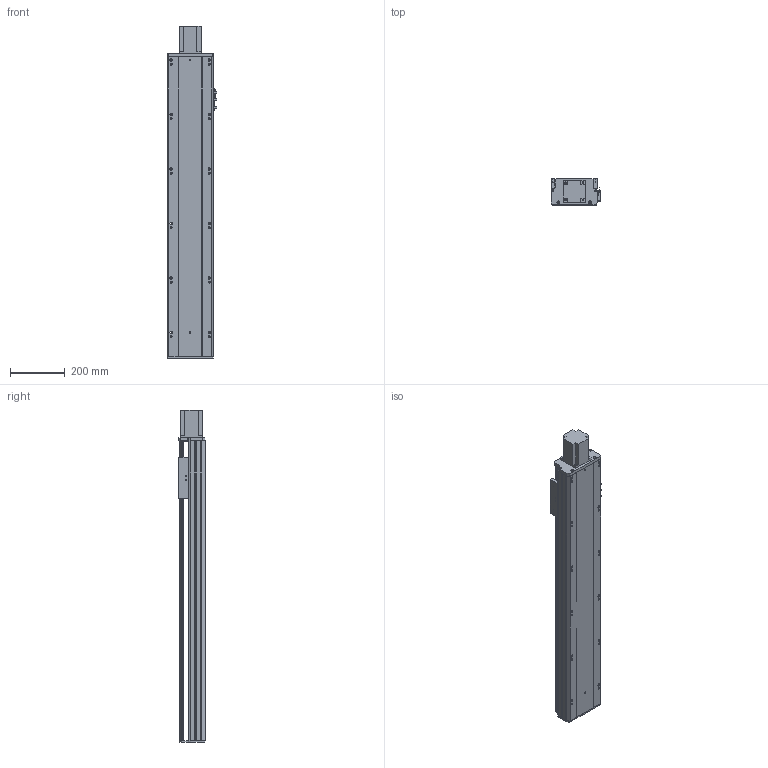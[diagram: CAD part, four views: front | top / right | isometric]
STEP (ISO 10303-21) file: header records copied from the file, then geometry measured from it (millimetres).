
FILE_DESCRIPTION (( 'STEP AP203' ), '1' );
FILE_NAME ('Y170-D10-S850-BD-P750W.STEP', '2020-01-22T07:00:18', ( '微软用户' ), ( '微软中国' ), 'SwSTEP 2.0', 'SolidWorks 2017', '' );
FILE_SCHEMA (( 'CONFIG_CONTROL_DESIGN' ));
Length unit declared in the file: millimetre
Products named in the file (10): Y170--雄赽釱-梓--; YD-Y100-135-新外置传感挡片(通用）; Y170-D10-S850-BD-P750W; Y100-135俋离換覜ん; 170--掛极-BD; Y170-萇儂楊擘啣--; 135-盓傅釱-FK15; 侂狟750W; Y170耜裔--準---; Y170-陔遴奻裔-BD
Assembly tree (11 placements, depth 2):
  Y170-D10-S850-BD-P750W
    YD-Y100-135-新外置传感挡片(通用）
    Y100-135俋离換覜ん  x3
    170--掛极-BD
    Y170-萇儂楊擘啣--
    135-盓傅釱-FK15
    侂狟750W
    Y170耜裔--準---
    Y170-陔遴奻裔-BD
    Y170--雄赽釱-梓--
Bounding box: 183.5 x 97 x 1218.5 mm (x, y, z)
Volume: 5293265 mm3; surface area: 1763914.1 mm2
Topology: 11 solids, 11 shells, 816 faces, 2307 edges, 1528 vertices
Faces by surface type: cylinder 426, plane 388, torus 2
Entity records: 26431 total; most frequent: CARTESIAN_POINT 4691, DIRECTION 4425, ORIENTED_EDGE 4278, EDGE_CURVE 2139, AXIS2_PLACEMENT_3D 1590, VERTEX_POINT 1416, VECTOR 1245, LINE 1245
